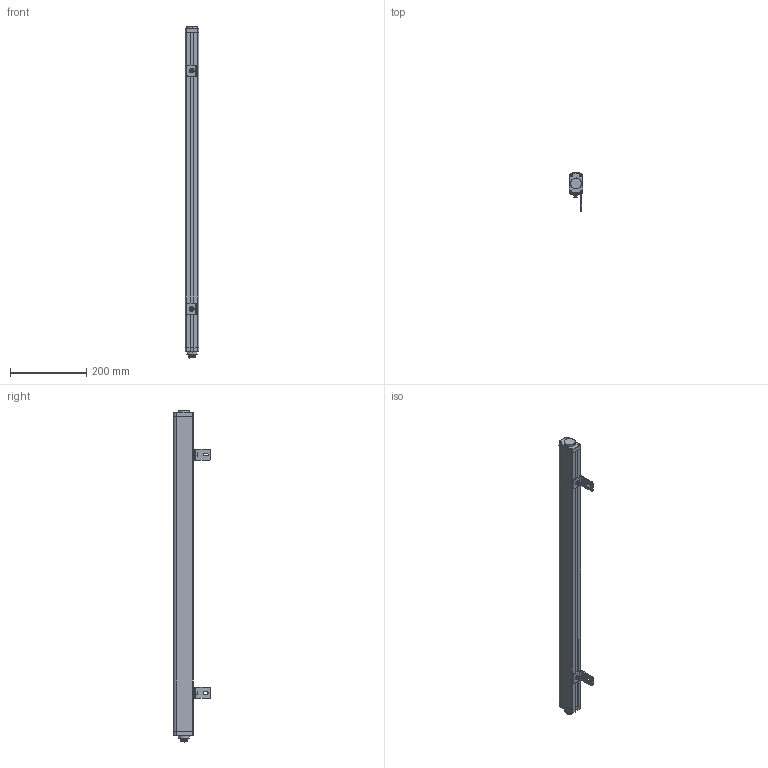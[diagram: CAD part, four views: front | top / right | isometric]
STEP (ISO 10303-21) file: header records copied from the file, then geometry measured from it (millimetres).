
FILE_DESCRIPTION((''),'2;1');
FILE_NAME('ESE8420_ASM','2021-07-12T15:06:15',('18720616900'),(''),'CREO PARAMETRIC BY PTC INC, 2019010','CREO PARAMETRIC BY PTC INC, 2019010','');
FILE_SCHEMA(('CONFIG_CONTROL_DESIGN'));
Length unit declared in the file: millimetre
Products named in the file (15): ESE--00; 000; ESE--000; HKCT2-1-SOLID1; HKCT11-1-SOLID1; 6_10001_ASM; ST-3-120001; L10001; M6-1-00; M6-1--00; M6-8--0001; 00; L1--0001_ASM; ESE8420_ASM
Assembly tree (22 placements, depth 3):
  ESE8420_ASM
    ESE--00
    000
    ESE--000
    ESE--000
    6_10001_ASM
      HKCT2-1-SOLID1
      HKCT11-1-SOLID1
    ST-3-120001  x8
    L1--0001_ASM  x2
      L10001
      M6-1-00
      M6-1--00
      M6-8--0001
      00
Bounding box: 35.3 x 99.3 x 870.59 mm (x, y, z)
Volume: 1466351 mm3; surface area: 234732.5 mm2
Topology: 24 solids, 24 shells, 1203 faces, 3161 edges, 2022 vertices
Faces by surface type: plane 340, cylinder 306, cone 246, bspline 233, torus 64, sphere 14
Entity records: 41666 total; most frequent: CARTESIAN_POINT 27268, ORIENTED_EDGE 3088, DIRECTION 2720, EDGE_CURVE 1544, AXIS2_PLACEMENT_3D 1052, VERTEX_POINT 1019, EDGE_LOOP 661, VECTOR 616
